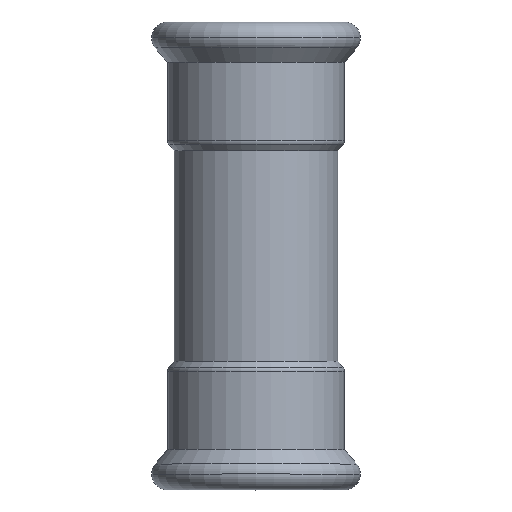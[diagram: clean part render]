
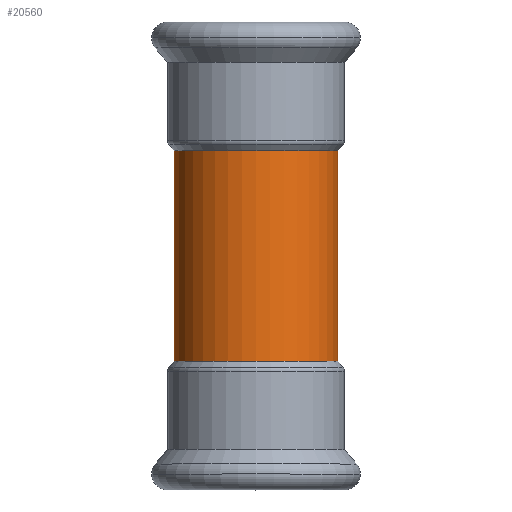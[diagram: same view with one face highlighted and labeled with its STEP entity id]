
A CAD part, top view. The second image highlights one B-rep face of the part: STEP entity #20560.
In plain terms, the highlighted cylindrical face has radius 21 mm (diameter 42 mm), a partial arc.
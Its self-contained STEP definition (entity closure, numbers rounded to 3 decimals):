
#13150=CARTESIAN_POINT('',(-404.306,13.173,
-27.));
#13160=DIRECTION('',(0.,0.,-1.));
#13170=DIRECTION('',(1.,0.,0.));
#13180=AXIS2_PLACEMENT_3D('',#13150,#13160,#13170);
#13190=CYLINDRICAL_SURFACE('',#13180,21.);
#20200=CARTESIAN_POINT('',(-383.306,13.173,
-27.));
#20210=DIRECTION('',(0.,0.,-1.));
#20220=VECTOR('',#20210,1.);
#20230=LINE('',#20200,#20220);
#20240=CARTESIAN_POINT('',(-383.306,13.173,
27.));
#20250=VERTEX_POINT('',#20240);
#20260=CARTESIAN_POINT('',(-383.306,13.173,
-27.));
#20270=VERTEX_POINT('',#20260);
#20280=EDGE_CURVE('',#20250,#20270,#20230,.T.);
#20290=ORIENTED_EDGE('',*,*,#20280,.F.);
#20300=CARTESIAN_POINT('',(-404.306,13.173,
-27.));
#20310=DIRECTION('',(0.,0.,-1.));
#20320=DIRECTION('',(1.,0.,0.));
#20330=AXIS2_PLACEMENT_3D('',#20300,#20310,#20320);
#20340=CIRCLE('',#20330,21.);
#20350=CARTESIAN_POINT('',(-425.306,13.173,
-27.));
#20360=VERTEX_POINT('',#20350);
#20370=EDGE_CURVE('',#20270,#20360,#20340,.T.);
#20380=ORIENTED_EDGE('',*,*,#20370,.F.);
#20390=CARTESIAN_POINT('',(-425.306,13.173,
-27.));
#20400=DIRECTION('',(0.,0.,-1.));
#20410=VECTOR('',#20400,1.);
#20420=LINE('',#20390,#20410);
#20430=CARTESIAN_POINT('',(-425.306,13.173,
27.));
#20440=VERTEX_POINT('',#20430);
#20450=EDGE_CURVE('',#20440,#20360,#20420,.T.);
#20460=ORIENTED_EDGE('',*,*,#20450,.T.);
#20470=CARTESIAN_POINT('',(-404.306,13.173,
27.));
#20480=DIRECTION('',(0.,0.,-1.));
#20490=DIRECTION('',(1.,0.,0.));
#20500=AXIS2_PLACEMENT_3D('',#20470,#20480,#20490);
#20510=CIRCLE('',#20500,21.);
#20520=EDGE_CURVE('',#20250,#20440,#20510,.T.);
#20530=ORIENTED_EDGE('',*,*,#20520,.T.);
#20540=EDGE_LOOP('',(#20530,#20460,#20380,#20290));
#20550=FACE_OUTER_BOUND('',#20540,.T.);
#20560=ADVANCED_FACE('',(#20550),#13190,.T.);
